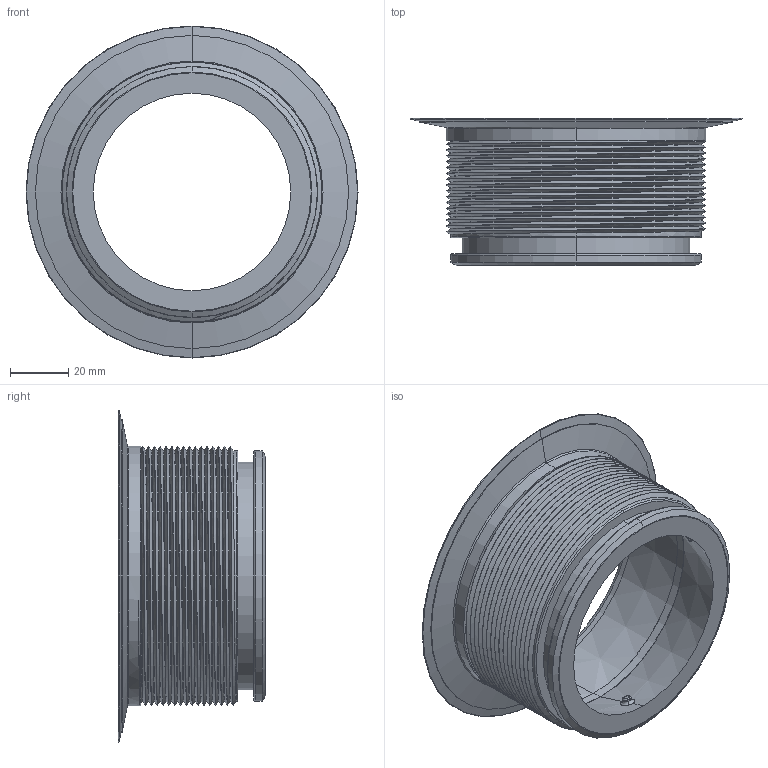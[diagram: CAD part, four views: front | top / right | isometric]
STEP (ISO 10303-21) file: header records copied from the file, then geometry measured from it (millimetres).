
FILE_DESCRIPTION (( 'STEP AP214' ), '1' );
FILE_NAME ('P-01002 - sink mount drain plastic - v2.2.1_Finger Saver Locks.STEP', '2026-06-12T21:54:35', ( '' ), ( '' ), 'SwSTEP 2.0', 'SolidWorks 2023', '' );
FILE_SCHEMA (( 'AUTOMOTIVE_DESIGN' ));
Length unit declared in the file: inch
Products named in the file (1): P-01002 - sink mount drain plastic - v2.2.1_Finger Saver Locks
Bounding box: 113.8 x 50.43 x 113.8 mm (x, y, z)
Volume: 51937.2 mm3; surface area: 45957 mm2
Topology: 1 solids, 1 shells, 106 faces, 262 edges, 162 vertices
Faces by surface type: cylinder 48, torus 20, cone 16, bspline 12, plane 10
Entity records: 15644 total; most frequent: CARTESIAN_POINT 13364, ORIENTED_EDGE 524, DIRECTION 436, EDGE_CURVE 262, AXIS2_PLACEMENT_3D 185, VERTEX_POINT 162, EDGE_LOOP 112, ADVANCED_FACE 106
